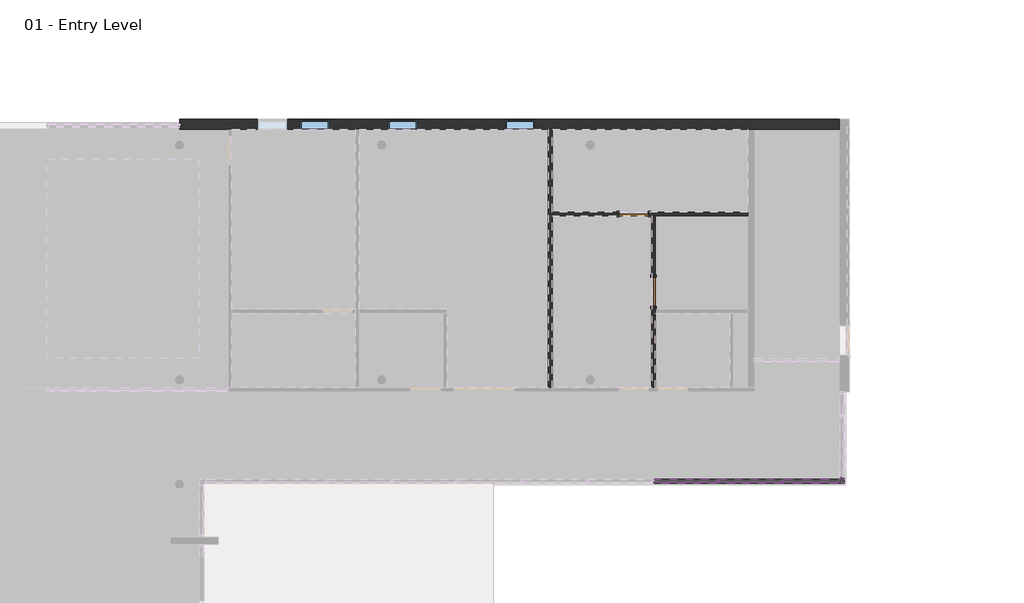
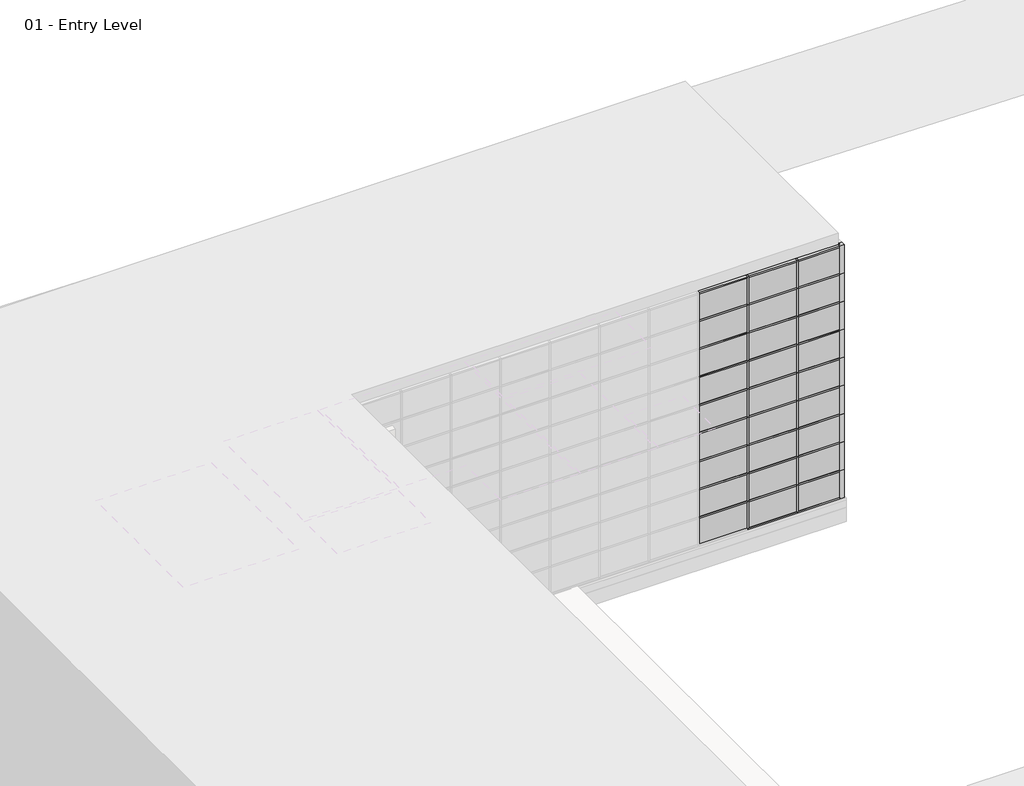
# One storey, part 30 of 35: 57 members, 33 plates, 4 walls, 3 windows, 2 doors.
"""IFC4 building model written with IfcOpenShell, lengths in millimetres."""

from ifc_helpers import new_model, si_unit, origin, place, context, project, spatial, faceted_brep, transform, mapped, element, save
from components import door_305aa2a5, door_e5f9f3c4, member_6230916f, member_2b49869a, member_391b434c, member_9e90ae50, member_515a5600, member_9fe7059d, member_9822c4e5, system_panel_glazed_1b9d6098, system_panel_glazed_70da479d, system_panel_glazed_379c68fb, system_panel_glazed_1c1023c8, system_panel_glazed_01db37db, system_panel_glazed_0a464ab8, window_dfee3f32

model = new_model("IFC4")

# Units and contexts
model_context = context("Model", 3, world=origin())
ifc_project = project(units=[si_unit("LENGTHUNIT", "METRE", prefix="MILLI")], contexts=[model_context])

# Site, building, storey
site = spatial("IfcSite", under=ifc_project)
building = spatial("IfcBuilding", under=site)
storey = spatial("IfcBuildingStorey", under=building, Name="01 - Entry Level", Elevation=0.0)

# Doors
placement = place(None, origin())
door_shape = door_305aa2a5(model_context)
element("IfcDoor", 1, ObjectType="Single-Flush : 36\" x 84\"", at=placement, inside=storey, context=model_context, shape_type="MappedRepresentation", body=[
    mapped(door_shape, transform((30646.0207476, 51082.5, 0.0), x_axis=(1.0, 0.0, 0.0), y_axis=(0.0, 1.0, 0.0), z_axis=(0.0, 0.0, 1.0))),
])
door_2_shape = door_e5f9f3c4(model_context)
element("IfcDoor", 2, ObjectType="Single-Flush : 36\" x 84\"", at=placement, inside=storey, context=model_context, shape_type="MappedRepresentation", body=[
    mapped(door_2_shape, transform((31255.6207476, 48656.8, 0.0), x_axis=(0.0, -1.0, 0.0), y_axis=(1.0, 0.0, 0.0), z_axis=(0.0, 0.0, 1.0))),
])

# Members
member_shape = member_6230916f(model_context)
element("IfcMember", 3, ObjectType="L Corner Mullion : 5\" x 5\" Corner", at=placement, inside=storey, context=model_context, shape_type="MappedRepresentation", body=[
    mapped(member_shape, transform((37148.4207476, 42751.3, 10972.8), x_axis=(0.0, -1.0, 0.0), y_axis=(1.0, 0.0, 0.0), z_axis=(0.0, 0.0, 1.0))),
])
element("IfcMember", 4, ObjectType="L Corner Mullion : 5\" x 5\" Corner", at=placement, inside=storey, context=model_context, shape_type="MappedRepresentation", body=[
    mapped(member_shape, transform((37148.4207476, 42751.3, 1219.2), x_axis=(0.0, -1.0, 0.0), y_axis=(1.0, 0.0, 0.0), z_axis=(0.0, 0.0, 1.0))),
])
element("IfcMember", 5, ObjectType="L Corner Mullion : 5\" x 5\" Corner", at=placement, inside=storey, context=model_context, shape_type="MappedRepresentation", body=[
    mapped(member_shape, transform((37148.4207476, 42751.3, 2438.4), x_axis=(0.0, -1.0, 0.0), y_axis=(1.0, 0.0, 0.0), z_axis=(0.0, 0.0, 1.0))),
])
element("IfcMember", 6, ObjectType="L Corner Mullion : 5\" x 5\" Corner", at=placement, inside=storey, context=model_context, shape_type="MappedRepresentation", body=[
    mapped(member_shape, transform((37148.4207476, 42751.3, 3657.6), x_axis=(0.0, -1.0, 0.0), y_axis=(1.0, 0.0, 0.0), z_axis=(0.0, 0.0, 1.0))),
])
element("IfcMember", 7, ObjectType="L Corner Mullion : 5\" x 5\" Corner", at=placement, inside=storey, context=model_context, shape_type="MappedRepresentation", body=[
    mapped(member_shape, transform((37148.4207476, 42751.3, 4876.8), x_axis=(0.0, -1.0, 0.0), y_axis=(1.0, 0.0, 0.0), z_axis=(0.0, 0.0, 1.0))),
])
element("IfcMember", 8, ObjectType="L Corner Mullion : 5\" x 5\" Corner", at=placement, inside=storey, context=model_context, shape_type="MappedRepresentation", body=[
    mapped(member_shape, transform((37148.4207476, 42751.3, 6096.0), x_axis=(0.0, -1.0, 0.0), y_axis=(1.0, 0.0, 0.0), z_axis=(0.0, 0.0, 1.0))),
])
element("IfcMember", 9, ObjectType="L Corner Mullion : 5\" x 5\" Corner", at=placement, inside=storey, context=model_context, shape_type="MappedRepresentation", body=[
    mapped(member_shape, transform((37148.4207476, 42751.3, 7315.2), x_axis=(0.0, -1.0, 0.0), y_axis=(1.0, 0.0, 0.0), z_axis=(0.0, 0.0, 1.0))),
])
element("IfcMember", 10, ObjectType="L Corner Mullion : 5\" x 5\" Corner", at=placement, inside=storey, context=model_context, shape_type="MappedRepresentation", body=[
    mapped(member_shape, transform((37148.4207476, 42751.3, 8534.4), x_axis=(0.0, -1.0, 0.0), y_axis=(1.0, 0.0, 0.0), z_axis=(0.0, 0.0, 1.0))),
])
element("IfcMember", 11, ObjectType="L Corner Mullion : 5\" x 5\" Corner", at=placement, inside=storey, context=model_context, shape_type="MappedRepresentation", body=[
    mapped(member_shape, transform((37148.4207476, 42751.3, 9753.6), x_axis=(0.0, -1.0, 0.0), y_axis=(1.0, 0.0, 0.0), z_axis=(0.0, 0.0, 1.0))),
])
member_2_shape = member_2b49869a(model_context)
element("IfcMember", 12, ObjectType="Rectangular Mullion : 2.5\" x 5\" rectangular", at=placement, inside=storey, context=model_context, shape_type="MappedRepresentation", body=[
    mapped(member_2_shape, transform((33262.2207476, 42751.3, 9753.6), x_axis=(1.0, 0.0, 0.0), y_axis=(0.0, -1.0, 0.0), z_axis=(0.0, 0.0, -1.0))),
])
element("IfcMember", 13, ObjectType="Rectangular Mullion : 2.5\" x 5\" rectangular", at=placement, inside=storey, context=model_context, shape_type="MappedRepresentation", body=[
    mapped(member_2_shape, transform((35294.2207476, 42751.3, 9753.6), x_axis=(1.0, 0.0, 0.0), y_axis=(0.0, -1.0, 0.0), z_axis=(0.0, 0.0, -1.0))),
])
member_3_shape = member_391b434c(model_context)
element("IfcMember", 14, ObjectType="Rectangular Mullion : 2.5\" x 5\" rectangular", at=placement, inside=storey, context=model_context, shape_type="MappedRepresentation", body=[
    mapped(member_3_shape, transform((33230.4707476, 42751.3, 10972.8), x_axis=(0.0, 0.0, 1.0), y_axis=(0.0, -1.0, 0.0), z_axis=(1.0, 0.0, 0.0))),
])
element("IfcMember", 15, ObjectType="Rectangular Mullion : 2.5\" x 5\" rectangular", at=placement, inside=storey, context=model_context, shape_type="MappedRepresentation", body=[
    mapped(member_3_shape, transform((35262.4707476, 42751.3, 10972.8), x_axis=(0.0, 0.0, 1.0), y_axis=(0.0, -1.0, 0.0), z_axis=(1.0, 0.0, 0.0))),
])
element("IfcMember", 16, ObjectType="Rectangular Mullion : 2.5\" x 5\" rectangular", at=placement, inside=storey, context=model_context, shape_type="MappedRepresentation", body=[
    mapped(member_3_shape, transform((33293.9707476, 42751.3, 0.0), x_axis=(0.0, 0.0, -1.0), y_axis=(0.0, -1.0, 0.0), z_axis=(-1.0, 0.0, 0.0))),
])
member_4_shape = member_9e90ae50(model_context)
element("IfcMember", 17, ObjectType="Rectangular Mullion : 2.5\" x 5\" rectangular", at=placement, inside=storey, context=model_context, shape_type="MappedRepresentation", body=[
    mapped(member_4_shape, transform((33230.4707476, 42751.3, 1219.2), x_axis=(0.0, 0.0, 1.0), y_axis=(0.0, -1.0, 0.0), z_axis=(1.0, 0.0, 0.0))),
])
element("IfcMember", 18, ObjectType="Rectangular Mullion : 2.5\" x 5\" rectangular", at=placement, inside=storey, context=model_context, shape_type="MappedRepresentation", body=[
    mapped(member_4_shape, transform((35262.4707476, 42751.3, 1219.2), x_axis=(0.0, 0.0, 1.0), y_axis=(0.0, -1.0, 0.0), z_axis=(1.0, 0.0, 0.0))),
])
element("IfcMember", 19, ObjectType="Rectangular Mullion : 2.5\" x 5\" rectangular", at=placement, inside=storey, context=model_context, shape_type="MappedRepresentation", body=[
    mapped(member_4_shape, transform((33230.4707476, 42751.3, 2438.4), x_axis=(0.0, 0.0, 1.0), y_axis=(0.0, -1.0, 0.0), z_axis=(1.0, 0.0, 0.0))),
])
element("IfcMember", 20, ObjectType="Rectangular Mullion : 2.5\" x 5\" rectangular", at=placement, inside=storey, context=model_context, shape_type="MappedRepresentation", body=[
    mapped(member_4_shape, transform((35262.4707476, 42751.3, 2438.4), x_axis=(0.0, 0.0, 1.0), y_axis=(0.0, -1.0, 0.0), z_axis=(1.0, 0.0, 0.0))),
])
element("IfcMember", 21, ObjectType="Rectangular Mullion : 2.5\" x 5\" rectangular", at=placement, inside=storey, context=model_context, shape_type="MappedRepresentation", body=[
    mapped(member_4_shape, transform((33230.4707476, 42751.3, 3657.6), x_axis=(0.0, 0.0, 1.0), y_axis=(0.0, -1.0, 0.0), z_axis=(1.0, 0.0, 0.0))),
])
element("IfcMember", 22, ObjectType="Rectangular Mullion : 2.5\" x 5\" rectangular", at=placement, inside=storey, context=model_context, shape_type="MappedRepresentation", body=[
    mapped(member_4_shape, transform((35262.4707476, 42751.3, 3657.6), x_axis=(0.0, 0.0, 1.0), y_axis=(0.0, -1.0, 0.0), z_axis=(1.0, 0.0, 0.0))),
])
element("IfcMember", 23, ObjectType="Rectangular Mullion : 2.5\" x 5\" rectangular", at=placement, inside=storey, context=model_context, shape_type="MappedRepresentation", body=[
    mapped(member_4_shape, transform((33230.4707476, 42751.3, 4876.8), x_axis=(0.0, 0.0, 1.0), y_axis=(0.0, -1.0, 0.0), z_axis=(1.0, 0.0, 0.0))),
])
element("IfcMember", 24, ObjectType="Rectangular Mullion : 2.5\" x 5\" rectangular", at=placement, inside=storey, context=model_context, shape_type="MappedRepresentation", body=[
    mapped(member_4_shape, transform((35262.4707476, 42751.3, 4876.8), x_axis=(0.0, 0.0, 1.0), y_axis=(0.0, -1.0, 0.0), z_axis=(1.0, 0.0, 0.0))),
])
element("IfcMember", 25, ObjectType="Rectangular Mullion : 2.5\" x 5\" rectangular", at=placement, inside=storey, context=model_context, shape_type="MappedRepresentation", body=[
    mapped(member_4_shape, transform((33230.4707476, 42751.3, 6096.0), x_axis=(0.0, 0.0, 1.0), y_axis=(0.0, -1.0, 0.0), z_axis=(1.0, 0.0, 0.0))),
])
element("IfcMember", 26, ObjectType="Rectangular Mullion : 2.5\" x 5\" rectangular", at=placement, inside=storey, context=model_context, shape_type="MappedRepresentation", body=[
    mapped(member_4_shape, transform((35262.4707476, 42751.3, 6096.0), x_axis=(0.0, 0.0, 1.0), y_axis=(0.0, -1.0, 0.0), z_axis=(1.0, 0.0, 0.0))),
])
element("IfcMember", 27, ObjectType="Rectangular Mullion : 2.5\" x 5\" rectangular", at=placement, inside=storey, context=model_context, shape_type="MappedRepresentation", body=[
    mapped(member_4_shape, transform((33230.4707476, 42751.3, 7315.2), x_axis=(0.0, 0.0, 1.0), y_axis=(0.0, -1.0, 0.0), z_axis=(1.0, 0.0, 0.0))),
])
element("IfcMember", 28, ObjectType="Rectangular Mullion : 2.5\" x 5\" rectangular", at=placement, inside=storey, context=model_context, shape_type="MappedRepresentation", body=[
    mapped(member_4_shape, transform((35262.4707476, 42751.3, 7315.2), x_axis=(0.0, 0.0, 1.0), y_axis=(0.0, -1.0, 0.0), z_axis=(1.0, 0.0, 0.0))),
])
element("IfcMember", 29, ObjectType="Rectangular Mullion : 2.5\" x 5\" rectangular", at=placement, inside=storey, context=model_context, shape_type="MappedRepresentation", body=[
    mapped(member_4_shape, transform((33230.4707476, 42751.3, 8534.4), x_axis=(0.0, 0.0, 1.0), y_axis=(0.0, -1.0, 0.0), z_axis=(1.0, 0.0, 0.0))),
])
element("IfcMember", 30, ObjectType="Rectangular Mullion : 2.5\" x 5\" rectangular", at=placement, inside=storey, context=model_context, shape_type="MappedRepresentation", body=[
    mapped(member_4_shape, transform((35262.4707476, 42751.3, 8534.4), x_axis=(0.0, 0.0, 1.0), y_axis=(0.0, -1.0, 0.0), z_axis=(1.0, 0.0, 0.0))),
])
element("IfcMember", 31, ObjectType="Rectangular Mullion : 2.5\" x 5\" rectangular", at=placement, inside=storey, context=model_context, shape_type="MappedRepresentation", body=[
    mapped(member_4_shape, transform((33230.4707476, 42751.3, 9753.6), x_axis=(0.0, 0.0, 1.0), y_axis=(0.0, -1.0, 0.0), z_axis=(1.0, 0.0, 0.0))),
])
element("IfcMember", 32, ObjectType="Rectangular Mullion : 2.5\" x 5\" rectangular", at=placement, inside=storey, context=model_context, shape_type="MappedRepresentation", body=[
    mapped(member_4_shape, transform((35262.4707476, 42751.3, 9753.6), x_axis=(0.0, 0.0, 1.0), y_axis=(0.0, -1.0, 0.0), z_axis=(1.0, 0.0, 0.0))),
])
element("IfcMember", 33, ObjectType="Rectangular Mullion : 2.5\" x 5\" rectangular", at=placement, inside=storey, context=model_context, shape_type="MappedRepresentation", body=[
    mapped(member_2_shape, transform((33262.2207476, 42751.3, 0.0), x_axis=(1.0, 0.0, 0.0), y_axis=(0.0, -1.0, 0.0), z_axis=(0.0, 0.0, -1.0))),
])
element("IfcMember", 34, ObjectType="Rectangular Mullion : 2.5\" x 5\" rectangular", at=placement, inside=storey, context=model_context, shape_type="MappedRepresentation", body=[
    mapped(member_2_shape, transform((35294.2207476, 42751.3, 0.0), x_axis=(1.0, 0.0, 0.0), y_axis=(0.0, -1.0, 0.0), z_axis=(0.0, 0.0, -1.0))),
])
element("IfcMember", 35, ObjectType="Rectangular Mullion : 2.5\" x 5\" rectangular", at=placement, inside=storey, context=model_context, shape_type="MappedRepresentation", body=[
    mapped(member_2_shape, transform((33262.2207476, 42751.3, 1219.2), x_axis=(1.0, 0.0, 0.0), y_axis=(0.0, -1.0, 0.0), z_axis=(0.0, 0.0, -1.0))),
])
element("IfcMember", 36, ObjectType="Rectangular Mullion : 2.5\" x 5\" rectangular", at=placement, inside=storey, context=model_context, shape_type="MappedRepresentation", body=[
    mapped(member_2_shape, transform((35294.2207476, 42751.3, 1219.2), x_axis=(1.0, 0.0, 0.0), y_axis=(0.0, -1.0, 0.0), z_axis=(0.0, 0.0, -1.0))),
])
element("IfcMember", 37, ObjectType="Rectangular Mullion : 2.5\" x 5\" rectangular", at=placement, inside=storey, context=model_context, shape_type="MappedRepresentation", body=[
    mapped(member_2_shape, transform((33262.2207476, 42751.3, 2438.4), x_axis=(1.0, 0.0, 0.0), y_axis=(0.0, -1.0, 0.0), z_axis=(0.0, 0.0, -1.0))),
])
element("IfcMember", 38, ObjectType="Rectangular Mullion : 2.5\" x 5\" rectangular", at=placement, inside=storey, context=model_context, shape_type="MappedRepresentation", body=[
    mapped(member_2_shape, transform((35294.2207476, 42751.3, 2438.4), x_axis=(1.0, 0.0, 0.0), y_axis=(0.0, -1.0, 0.0), z_axis=(0.0, 0.0, -1.0))),
])
element("IfcMember", 39, ObjectType="Rectangular Mullion : 2.5\" x 5\" rectangular", at=placement, inside=storey, context=model_context, shape_type="MappedRepresentation", body=[
    mapped(member_2_shape, transform((33262.2207476, 42751.3, 3657.6), x_axis=(1.0, 0.0, 0.0), y_axis=(0.0, -1.0, 0.0), z_axis=(0.0, 0.0, -1.0))),
])
element("IfcMember", 40, ObjectType="Rectangular Mullion : 2.5\" x 5\" rectangular", at=placement, inside=storey, context=model_context, shape_type="MappedRepresentation", body=[
    mapped(member_2_shape, transform((35294.2207476, 42751.3, 3657.6), x_axis=(1.0, 0.0, 0.0), y_axis=(0.0, -1.0, 0.0), z_axis=(0.0, 0.0, -1.0))),
])
element("IfcMember", 41, ObjectType="Rectangular Mullion : 2.5\" x 5\" rectangular", at=placement, inside=storey, context=model_context, shape_type="MappedRepresentation", body=[
    mapped(member_2_shape, transform((33262.2207476, 42751.3, 4876.8), x_axis=(1.0, 0.0, 0.0), y_axis=(0.0, -1.0, 0.0), z_axis=(0.0, 0.0, -1.0))),
])
element("IfcMember", 42, ObjectType="Rectangular Mullion : 2.5\" x 5\" rectangular", at=placement, inside=storey, context=model_context, shape_type="MappedRepresentation", body=[
    mapped(member_2_shape, transform((35294.2207476, 42751.3, 4876.8), x_axis=(1.0, 0.0, 0.0), y_axis=(0.0, -1.0, 0.0), z_axis=(0.0, 0.0, -1.0))),
])
element("IfcMember", 43, ObjectType="Rectangular Mullion : 2.5\" x 5\" rectangular", at=placement, inside=storey, context=model_context, shape_type="MappedRepresentation", body=[
    mapped(member_2_shape, transform((33262.2207476, 42751.3, 6096.0), x_axis=(1.0, 0.0, 0.0), y_axis=(0.0, -1.0, 0.0), z_axis=(0.0, 0.0, -1.0))),
])
element("IfcMember", 44, ObjectType="Rectangular Mullion : 2.5\" x 5\" rectangular", at=placement, inside=storey, context=model_context, shape_type="MappedRepresentation", body=[
    mapped(member_2_shape, transform((35294.2207476, 42751.3, 6096.0), x_axis=(1.0, 0.0, 0.0), y_axis=(0.0, -1.0, 0.0), z_axis=(0.0, 0.0, -1.0))),
])
element("IfcMember", 45, ObjectType="Rectangular Mullion : 2.5\" x 5\" rectangular", at=placement, inside=storey, context=model_context, shape_type="MappedRepresentation", body=[
    mapped(member_2_shape, transform((33262.2207476, 42751.3, 7315.2), x_axis=(1.0, 0.0, 0.0), y_axis=(0.0, -1.0, 0.0), z_axis=(0.0, 0.0, -1.0))),
])
element("IfcMember", 46, ObjectType="Rectangular Mullion : 2.5\" x 5\" rectangular", at=placement, inside=storey, context=model_context, shape_type="MappedRepresentation", body=[
    mapped(member_2_shape, transform((35294.2207476, 42751.3, 7315.2), x_axis=(1.0, 0.0, 0.0), y_axis=(0.0, -1.0, 0.0), z_axis=(0.0, 0.0, -1.0))),
])
element("IfcMember", 47, ObjectType="Rectangular Mullion : 2.5\" x 5\" rectangular", at=placement, inside=storey, context=model_context, shape_type="MappedRepresentation", body=[
    mapped(member_2_shape, transform((33262.2207476, 42751.3, 8534.4), x_axis=(1.0, 0.0, 0.0), y_axis=(0.0, -1.0, 0.0), z_axis=(0.0, 0.0, -1.0))),
])
element("IfcMember", 48, ObjectType="Rectangular Mullion : 2.5\" x 5\" rectangular", at=placement, inside=storey, context=model_context, shape_type="MappedRepresentation", body=[
    mapped(member_2_shape, transform((35294.2207476, 42751.3, 8534.4), x_axis=(1.0, 0.0, 0.0), y_axis=(0.0, -1.0, 0.0), z_axis=(0.0, 0.0, -1.0))),
])
member_5_shape = member_515a5600(model_context)
element("IfcMember", 49, ObjectType="Rectangular Mullion : 2.5\" x 5\" rectangular", at=placement, inside=storey, context=model_context, shape_type="MappedRepresentation", body=[
    mapped(member_5_shape, transform((37021.4207476, 42751.3, 10972.8), x_axis=(0.0, 0.0, 1.0), y_axis=(0.0, -1.0, 0.0), z_axis=(1.0, 0.0, 0.0))),
])
element("IfcMember", 50, ObjectType="Rectangular Mullion : 2.5\" x 5\" rectangular", at=placement, inside=storey, context=model_context, shape_type="MappedRepresentation", body=[
    mapped(member_5_shape, transform((35325.9707476, 42751.3, 0.0), x_axis=(0.0, 0.0, -1.0), y_axis=(0.0, -1.0, 0.0), z_axis=(-1.0, 0.0, 0.0))),
])
member_6_shape = member_9fe7059d(model_context)
element("IfcMember", 51, ObjectType="Rectangular Mullion : 2.5\" x 5\" rectangular", at=placement, inside=storey, context=model_context, shape_type="MappedRepresentation", body=[
    mapped(member_6_shape, transform((37021.4207476, 42751.3, 1219.2), x_axis=(0.0, 0.0, 1.0), y_axis=(0.0, -1.0, 0.0), z_axis=(1.0, 0.0, 0.0))),
])
element("IfcMember", 52, ObjectType="Rectangular Mullion : 2.5\" x 5\" rectangular", at=placement, inside=storey, context=model_context, shape_type="MappedRepresentation", body=[
    mapped(member_6_shape, transform((37021.4207476, 42751.3, 2438.4), x_axis=(0.0, 0.0, 1.0), y_axis=(0.0, -1.0, 0.0), z_axis=(1.0, 0.0, 0.0))),
])
element("IfcMember", 53, ObjectType="Rectangular Mullion : 2.5\" x 5\" rectangular", at=placement, inside=storey, context=model_context, shape_type="MappedRepresentation", body=[
    mapped(member_6_shape, transform((37021.4207476, 42751.3, 3657.6), x_axis=(0.0, 0.0, 1.0), y_axis=(0.0, -1.0, 0.0), z_axis=(1.0, 0.0, 0.0))),
])
element("IfcMember", 54, ObjectType="Rectangular Mullion : 2.5\" x 5\" rectangular", at=placement, inside=storey, context=model_context, shape_type="MappedRepresentation", body=[
    mapped(member_6_shape, transform((37021.4207476, 42751.3, 4876.8), x_axis=(0.0, 0.0, 1.0), y_axis=(0.0, -1.0, 0.0), z_axis=(1.0, 0.0, 0.0))),
])
element("IfcMember", 55, ObjectType="Rectangular Mullion : 2.5\" x 5\" rectangular", at=placement, inside=storey, context=model_context, shape_type="MappedRepresentation", body=[
    mapped(member_6_shape, transform((37021.4207476, 42751.3, 6096.0), x_axis=(0.0, 0.0, 1.0), y_axis=(0.0, -1.0, 0.0), z_axis=(1.0, 0.0, 0.0))),
])
element("IfcMember", 56, ObjectType="Rectangular Mullion : 2.5\" x 5\" rectangular", at=placement, inside=storey, context=model_context, shape_type="MappedRepresentation", body=[
    mapped(member_6_shape, transform((37021.4207476, 42751.3, 7315.2), x_axis=(0.0, 0.0, 1.0), y_axis=(0.0, -1.0, 0.0), z_axis=(1.0, 0.0, 0.0))),
])
element("IfcMember", 57, ObjectType="Rectangular Mullion : 2.5\" x 5\" rectangular", at=placement, inside=storey, context=model_context, shape_type="MappedRepresentation", body=[
    mapped(member_6_shape, transform((37021.4207476, 42751.3, 8534.4), x_axis=(0.0, 0.0, 1.0), y_axis=(0.0, -1.0, 0.0), z_axis=(1.0, 0.0, 0.0))),
])
element("IfcMember", 58, ObjectType="Rectangular Mullion : 2.5\" x 5\" rectangular", at=placement, inside=storey, context=model_context, shape_type="MappedRepresentation", body=[
    mapped(member_6_shape, transform((37021.4207476, 42751.3, 9753.6), x_axis=(0.0, 0.0, 1.0), y_axis=(0.0, -1.0, 0.0), z_axis=(1.0, 0.0, 0.0))),
])
member_7_shape = member_9822c4e5(model_context)
element("IfcMember", 59, ObjectType="Rectangular Mullion : 2.5\" x 5\" rectangular", at=placement, inside=storey, context=model_context, shape_type="MappedRepresentation", body=[
    mapped(member_7_shape, transform((37148.4207476, 42878.3, 0.0), x_axis=(0.0, 0.0, -1.0), y_axis=(1.0, 0.0, 0.0), z_axis=(0.0, -1.0, 0.0))),
])

# Plates
system_panel_glazed_shape = system_panel_glazed_1b9d6098(model_context)
element("IfcPlate", 60, ObjectType="System Panel : Glazed", at=placement, inside=storey, context=model_context, shape_type="MappedRepresentation", body=[
    mapped(system_panel_glazed_shape, transform((32246.2207476, 42751.3, 63.5), x_axis=(1.0, 0.0, 0.0), y_axis=(0.0, 1.0, 0.0), z_axis=(0.0, 0.0, 1.0))),
])
element("IfcPlate", 61, ObjectType="System Panel : Glazed", at=placement, inside=storey, context=model_context, shape_type="MappedRepresentation", body=[
    mapped(system_panel_glazed_shape, transform((34278.2207476, 42751.3, 63.5), x_axis=(1.0, 0.0, 0.0), y_axis=(0.0, 1.0, 0.0), z_axis=(0.0, 0.0, 1.0))),
])
element("IfcPlate", 62, ObjectType="System Panel : Glazed", at=placement, inside=storey, context=model_context, shape_type="MappedRepresentation", body=[
    mapped(system_panel_glazed_shape, transform((32246.2207476, 42751.3, 9785.35), x_axis=(1.0, 0.0, 0.0), y_axis=(0.0, 1.0, 0.0), z_axis=(0.0, 0.0, 1.0))),
])
element("IfcPlate", 63, ObjectType="System Panel : Glazed", at=placement, inside=storey, context=model_context, shape_type="MappedRepresentation", body=[
    mapped(system_panel_glazed_shape, transform((34278.2207476, 42751.3, 9785.35), x_axis=(1.0, 0.0, 0.0), y_axis=(0.0, 1.0, 0.0), z_axis=(0.0, 0.0, 1.0))),
])
system_panel_glazed_2_shape = system_panel_glazed_70da479d(model_context)
element("IfcPlate", 64, ObjectType="System Panel : Glazed", at=placement, inside=storey, context=model_context, shape_type="MappedRepresentation", body=[
    mapped(system_panel_glazed_2_shape, transform((32246.2207476, 42751.3, 1250.95), x_axis=(1.0, 0.0, 0.0), y_axis=(0.0, 1.0, 0.0), z_axis=(0.0, 0.0, 1.0))),
])
element("IfcPlate", 65, ObjectType="System Panel : Glazed", at=placement, inside=storey, context=model_context, shape_type="MappedRepresentation", body=[
    mapped(system_panel_glazed_2_shape, transform((34278.2207476, 42751.3, 1250.95), x_axis=(1.0, 0.0, 0.0), y_axis=(0.0, 1.0, 0.0), z_axis=(0.0, 0.0, 1.0))),
])
element("IfcPlate", 66, ObjectType="System Panel : Glazed", at=placement, inside=storey, context=model_context, shape_type="MappedRepresentation", body=[
    mapped(system_panel_glazed_2_shape, transform((32246.2207476, 42751.3, 2470.15), x_axis=(1.0, 0.0, 0.0), y_axis=(0.0, 1.0, 0.0), z_axis=(0.0, 0.0, 1.0))),
])
element("IfcPlate", 67, ObjectType="System Panel : Glazed", at=placement, inside=storey, context=model_context, shape_type="MappedRepresentation", body=[
    mapped(system_panel_glazed_2_shape, transform((34278.2207476, 42751.3, 2470.15), x_axis=(1.0, 0.0, 0.0), y_axis=(0.0, 1.0, 0.0), z_axis=(0.0, 0.0, 1.0))),
])
element("IfcPlate", 68, ObjectType="System Panel : Glazed", at=placement, inside=storey, context=model_context, shape_type="MappedRepresentation", body=[
    mapped(system_panel_glazed_2_shape, transform((32246.2207476, 42751.3, 3689.35), x_axis=(1.0, 0.0, 0.0), y_axis=(0.0, 1.0, 0.0), z_axis=(0.0, 0.0, 1.0))),
])
element("IfcPlate", 69, ObjectType="System Panel : Glazed", at=placement, inside=storey, context=model_context, shape_type="MappedRepresentation", body=[
    mapped(system_panel_glazed_2_shape, transform((34278.2207476, 42751.3, 3689.35), x_axis=(1.0, 0.0, 0.0), y_axis=(0.0, 1.0, 0.0), z_axis=(0.0, 0.0, 1.0))),
])
element("IfcPlate", 70, ObjectType="System Panel : Glazed", at=placement, inside=storey, context=model_context, shape_type="MappedRepresentation", body=[
    mapped(system_panel_glazed_2_shape, transform((32246.2207476, 42751.3, 4908.55), x_axis=(1.0, 0.0, 0.0), y_axis=(0.0, 1.0, 0.0), z_axis=(0.0, 0.0, 1.0))),
])
element("IfcPlate", 71, ObjectType="System Panel : Glazed", at=placement, inside=storey, context=model_context, shape_type="MappedRepresentation", body=[
    mapped(system_panel_glazed_2_shape, transform((34278.2207476, 42751.3, 4908.55), x_axis=(1.0, 0.0, 0.0), y_axis=(0.0, 1.0, 0.0), z_axis=(0.0, 0.0, 1.0))),
])
element("IfcPlate", 72, ObjectType="System Panel : Glazed", at=placement, inside=storey, context=model_context, shape_type="MappedRepresentation", body=[
    mapped(system_panel_glazed_2_shape, transform((32246.2207476, 42751.3, 6127.75), x_axis=(1.0, 0.0, 0.0), y_axis=(0.0, 1.0, 0.0), z_axis=(0.0, 0.0, 1.0))),
])
element("IfcPlate", 73, ObjectType="System Panel : Glazed", at=placement, inside=storey, context=model_context, shape_type="MappedRepresentation", body=[
    mapped(system_panel_glazed_2_shape, transform((34278.2207476, 42751.3, 6127.75), x_axis=(1.0, 0.0, 0.0), y_axis=(0.0, 1.0, 0.0), z_axis=(0.0, 0.0, 1.0))),
])
element("IfcPlate", 74, ObjectType="System Panel : Glazed", at=placement, inside=storey, context=model_context, shape_type="MappedRepresentation", body=[
    mapped(system_panel_glazed_2_shape, transform((32246.2207476, 42751.3, 7346.95), x_axis=(1.0, 0.0, 0.0), y_axis=(0.0, 1.0, 0.0), z_axis=(0.0, 0.0, 1.0))),
])
element("IfcPlate", 75, ObjectType="System Panel : Glazed", at=placement, inside=storey, context=model_context, shape_type="MappedRepresentation", body=[
    mapped(system_panel_glazed_2_shape, transform((34278.2207476, 42751.3, 7346.95), x_axis=(1.0, 0.0, 0.0), y_axis=(0.0, 1.0, 0.0), z_axis=(0.0, 0.0, 1.0))),
])
element("IfcPlate", 76, ObjectType="System Panel : Glazed", at=placement, inside=storey, context=model_context, shape_type="MappedRepresentation", body=[
    mapped(system_panel_glazed_2_shape, transform((32246.2207476, 42751.3, 8566.15), x_axis=(1.0, 0.0, 0.0), y_axis=(0.0, 1.0, 0.0), z_axis=(0.0, 0.0, 1.0))),
])
element("IfcPlate", 77, ObjectType="System Panel : Glazed", at=placement, inside=storey, context=model_context, shape_type="MappedRepresentation", body=[
    mapped(system_panel_glazed_2_shape, transform((34278.2207476, 42751.3, 8566.15), x_axis=(1.0, 0.0, 0.0), y_axis=(0.0, 1.0, 0.0), z_axis=(0.0, 0.0, 1.0))),
])
system_panel_glazed_3_shape = system_panel_glazed_379c68fb(model_context)
element("IfcPlate", 78, ObjectType="System Panel : Glazed", at=placement, inside=storey, context=model_context, shape_type="MappedRepresentation", body=[
    mapped(system_panel_glazed_3_shape, transform((36173.6957476, 42751.3, 63.5), x_axis=(1.0, 0.0, 0.0), y_axis=(0.0, 1.0, 0.0), z_axis=(0.0, 0.0, 1.0))),
])
element("IfcPlate", 79, ObjectType="System Panel : Glazed", at=placement, inside=storey, context=model_context, shape_type="MappedRepresentation", body=[
    mapped(system_panel_glazed_3_shape, transform((36173.6957476, 42751.3, 9785.35), x_axis=(1.0, 0.0, 0.0), y_axis=(0.0, 1.0, 0.0), z_axis=(0.0, 0.0, 1.0))),
])
system_panel_glazed_4_shape = system_panel_glazed_1c1023c8(model_context)
element("IfcPlate", 80, ObjectType="System Panel : Glazed", at=placement, inside=storey, context=model_context, shape_type="MappedRepresentation", body=[
    mapped(system_panel_glazed_4_shape, transform((36173.6957476, 42751.3, 1250.95), x_axis=(1.0, 0.0, 0.0), y_axis=(0.0, 1.0, 0.0), z_axis=(0.0, 0.0, 1.0))),
])
element("IfcPlate", 81, ObjectType="System Panel : Glazed", at=placement, inside=storey, context=model_context, shape_type="MappedRepresentation", body=[
    mapped(system_panel_glazed_4_shape, transform((36173.6957476, 42751.3, 2470.15), x_axis=(1.0, 0.0, 0.0), y_axis=(0.0, 1.0, 0.0), z_axis=(0.0, 0.0, 1.0))),
])
element("IfcPlate", 82, ObjectType="System Panel : Glazed", at=placement, inside=storey, context=model_context, shape_type="MappedRepresentation", body=[
    mapped(system_panel_glazed_4_shape, transform((36173.6957476, 42751.3, 3689.35), x_axis=(1.0, 0.0, 0.0), y_axis=(0.0, 1.0, 0.0), z_axis=(0.0, 0.0, 1.0))),
])
element("IfcPlate", 83, ObjectType="System Panel : Glazed", at=placement, inside=storey, context=model_context, shape_type="MappedRepresentation", body=[
    mapped(system_panel_glazed_4_shape, transform((36173.6957476, 42751.3, 4908.55), x_axis=(1.0, 0.0, 0.0), y_axis=(0.0, 1.0, 0.0), z_axis=(0.0, 0.0, 1.0))),
])
element("IfcPlate", 84, ObjectType="System Panel : Glazed", at=placement, inside=storey, context=model_context, shape_type="MappedRepresentation", body=[
    mapped(system_panel_glazed_4_shape, transform((36173.6957476, 42751.3, 6127.75), x_axis=(1.0, 0.0, 0.0), y_axis=(0.0, 1.0, 0.0), z_axis=(0.0, 0.0, 1.0))),
])
element("IfcPlate", 85, ObjectType="System Panel : Glazed", at=placement, inside=storey, context=model_context, shape_type="MappedRepresentation", body=[
    mapped(system_panel_glazed_4_shape, transform((36173.6957476, 42751.3, 7346.95), x_axis=(1.0, 0.0, 0.0), y_axis=(0.0, 1.0, 0.0), z_axis=(0.0, 0.0, 1.0))),
])
element("IfcPlate", 86, ObjectType="System Panel : Glazed", at=placement, inside=storey, context=model_context, shape_type="MappedRepresentation", body=[
    mapped(system_panel_glazed_4_shape, transform((36173.6957476, 42751.3, 8566.15), x_axis=(1.0, 0.0, 0.0), y_axis=(0.0, 1.0, 0.0), z_axis=(0.0, 0.0, 1.0))),
])
system_panel_glazed_5_shape = system_panel_glazed_01db37db(model_context)
element("IfcPlate", 87, ObjectType="System Panel : Glazed", at=placement, inside=storey, context=model_context, shape_type="MappedRepresentation", body=[
    mapped(system_panel_glazed_5_shape, transform((37148.4207476, 43814.925, 63.5), x_axis=(0.0, 1.0, 0.0), y_axis=(-1.0, 0.0, 0.0), z_axis=(0.0, 0.0, 1.0))),
])
system_panel_glazed_6_shape = system_panel_glazed_0a464ab8(model_context)
element("IfcPlate", 88, ObjectType="System Panel : Glazed", at=placement, inside=storey, context=model_context, shape_type="MappedRepresentation", body=[
    mapped(system_panel_glazed_6_shape, transform((37148.4207476, 43814.925, 1250.95), x_axis=(0.0, 1.0, 0.0), y_axis=(-1.0, 0.0, 0.0), z_axis=(0.0, 0.0, 1.0))),
])
element("IfcPlate", 89, ObjectType="System Panel : Glazed", at=placement, inside=storey, context=model_context, shape_type="MappedRepresentation", body=[
    mapped(system_panel_glazed_6_shape, transform((37148.4207476, 43814.925, 2470.15), x_axis=(0.0, 1.0, 0.0), y_axis=(-1.0, 0.0, 0.0), z_axis=(0.0, 0.0, 1.0))),
])
element("IfcPlate", 90, ObjectType="System Panel : Glazed", at=placement, inside=storey, context=model_context, shape_type="MappedRepresentation", body=[
    mapped(system_panel_glazed_6_shape, transform((37148.4207476, 43814.925, 3689.35), x_axis=(0.0, 1.0, 0.0), y_axis=(-1.0, 0.0, 0.0), z_axis=(0.0, 0.0, 1.0))),
])
element("IfcPlate", 91, ObjectType="System Panel : Glazed", at=placement, inside=storey, context=model_context, shape_type="MappedRepresentation", body=[
    mapped(system_panel_glazed_6_shape, transform((37148.4207476, 43814.925, 4908.55), x_axis=(0.0, 1.0, 0.0), y_axis=(-1.0, 0.0, 0.0), z_axis=(0.0, 0.0, 1.0))),
])
element("IfcPlate", 92, ObjectType="System Panel : Glazed", at=placement, inside=storey, context=model_context, shape_type="MappedRepresentation", body=[
    mapped(system_panel_glazed_6_shape, transform((37148.4207476, 43814.925, 6127.75), x_axis=(0.0, 1.0, 0.0), y_axis=(-1.0, 0.0, 0.0), z_axis=(0.0, 0.0, 1.0))),
])

# Walls
element("IfcWall", 93, ObjectType="Exterior - EIFS on CMU", at=placement, inside=storey, context=model_context, shape_type="Brep", body=[
    faceted_brep([(37046.8207476, 54032.075, 0.0), (16485.5207476, 54032.075, 0.0), (16485.5207476, 54032.075, 10972.8), (34405.2207476, 54032.075, 10972.8), (34405.2207476, 54032.075, 3657.6), (37046.8207476, 54032.075, 3657.6), (30798.4207476, 54032.075, 9448.8), (29884.0207476, 54032.075, 9448.8), (29884.0207476, 54032.075, 8229.6), (30798.4207476, 54032.075, 8229.6), (32322.4207476, 54032.075, 9448.8), (31408.0207476, 54032.075, 9448.8), (31408.0207476, 54032.075, 8229.6), (32322.4207476, 54032.075, 8229.6), (33846.4207476, 54032.075, 9448.8), (32932.0207476, 54032.075, 9448.8), (32932.0207476, 54032.075, 8229.6), (33846.4207476, 54032.075, 8229.6), (28931.5207476, 54032.075, 9448.8), (28017.1207476, 54032.075, 9448.8), (28017.1207476, 54032.075, 8229.6), (28931.5207476, 54032.075, 8229.6), (27407.5207476, 54032.075, 9448.8), (26493.1207476, 54032.075, 9448.8), (26493.1207476, 54032.075, 8229.6), (27407.5207476, 54032.075, 8229.6), (24054.7207476, 54032.075, 9448.8), (23140.3207476, 54032.075, 9448.8), (23140.3207476, 54032.075, 8229.6), (24054.7207476, 54032.075, 8229.6), (25578.7207476, 54032.075, 9448.8), (24664.3207476, 54032.075, 9448.8), (24664.3207476, 54032.075, 8229.6), (25578.7207476, 54032.075, 8229.6), (21387.7207476, 54032.075, 9448.8), (20473.3207476, 54032.075, 9448.8), (20473.3207476, 54032.075, 8229.6), (21387.7207476, 54032.075, 8229.6), (33846.4207476, 54032.075, 5791.2), (32932.0207476, 54032.075, 5791.2), (32932.0207476, 54032.075, 4572.0), (33846.4207476, 54032.075, 4572.0), (31293.7207476, 54032.075, 5791.2), (30379.3207476, 54032.075, 5791.2), (30379.3207476, 54032.075, 4572.0), (31293.7207476, 54032.075, 4572.0), (28398.1207476, 54032.075, 5791.2), (27483.7207476, 54032.075, 5791.2), (27483.7207476, 54032.075, 4572.0), (28398.1207476, 54032.075, 4572.0), (26569.3207476, 54032.075, 5791.2), (25654.9207476, 54032.075, 5791.2), (25654.9207476, 54032.075, 4572.0), (26569.3207476, 54032.075, 4572.0), (24003.9207476, 54032.075, 5791.2), (23089.5207476, 54032.075, 5791.2), (23089.5207476, 54032.075, 4572.0), (24003.9207476, 54032.075, 4572.0), (21565.5207476, 54032.075, 5791.2), (20651.1207476, 54032.075, 5791.2), (20651.1207476, 54032.075, 4572.0), (21565.5207476, 54032.075, 4572.0), (19381.1207476, 54032.075, 5791.2), (18466.7207476, 54032.075, 5791.2), (18466.7207476, 54032.075, 4572.0), (19381.1207476, 54032.075, 4572.0), (19838.3207476, 54032.075, 2133.6), (18923.9207476, 54032.075, 2133.6), (18923.9207476, 54032.075, 914.4), (19838.3207476, 54032.075, 914.4), (21159.1207476, 54032.075, 2133.6), (20244.7207476, 54032.075, 2133.6), (20244.7207476, 54032.075, 914.4), (21159.1207476, 54032.075, 914.4), (23902.3207476, 54032.075, 2133.6), (22987.9207476, 54032.075, 2133.6), (22987.9207476, 54032.075, 914.4), (23902.3207476, 54032.075, 914.4), (27559.6032476, 54032.075, 2133.6), (26645.2032476, 54032.075, 2133.6), (26645.2032476, 54032.075, 914.4), (27559.6032476, 54032.075, 914.4), (16485.5207476, 53724.1, 10972.8), (16485.5207476, 53724.1, 0.0), (18003.1707476, 53724.1, 0.0), (18117.4707476, 53724.1, 0.0), (21965.5707476, 53724.1, 0.0), (22079.8707476, 53724.1, 0.0), (27985.3707476, 53724.1, 0.0), (28099.6707476, 53724.1, 0.0), (34194.0832476, 53724.1, 0.0), (34413.1582476, 53724.1, 0.0), (37046.8207476, 53724.1, 0.0), (37046.8207476, 53724.1, 3657.6), (34405.2207476, 53724.1, 3657.6), (34405.2207476, 53724.1, 10972.8), (34194.0832476, 53724.1, 10972.8), (26093.0707476, 53724.1, 10972.8), (25978.7707476, 53724.1, 10972.8), (20073.2707476, 53724.1, 10972.8), (19958.9707476, 53724.1, 10972.8), (30798.4207476, 53724.1, 9448.8), (30798.4207476, 53724.1, 8229.6), (29884.0207476, 53724.1, 8229.6), (29884.0207476, 53724.1, 9448.8), (32322.4207476, 53724.1, 9448.8), (32322.4207476, 53724.1, 8229.6), (31408.0207476, 53724.1, 8229.6), (31408.0207476, 53724.1, 9448.8), (33846.4207476, 53724.1, 9448.8), (33846.4207476, 53724.1, 8229.6), (32932.0207476, 53724.1, 8229.6), (32932.0207476, 53724.1, 9448.8), (28931.5207476, 53724.1, 9448.8), (28931.5207476, 53724.1, 8229.6), (28017.1207476, 53724.1, 8229.6), (28017.1207476, 53724.1, 9448.8), (27407.5207476, 53724.1, 9448.8), (27407.5207476, 53724.1, 8229.6), (26493.1207476, 53724.1, 8229.6), (26493.1207476, 53724.1, 9448.8), (24054.7207476, 53724.1, 9448.8), (24054.7207476, 53724.1, 8229.6), (23140.3207476, 53724.1, 8229.6), (23140.3207476, 53724.1, 9448.8), (25578.7207476, 53724.1, 9448.8), (25578.7207476, 53724.1, 8229.6), (24664.3207476, 53724.1, 8229.6), (24664.3207476, 53724.1, 9448.8), (21387.7207476, 53724.1, 9448.8), (21387.7207476, 53724.1, 8229.6), (20473.3207476, 53724.1, 8229.6), (20473.3207476, 53724.1, 9448.8), (33846.4207476, 53724.1, 5791.2), (33846.4207476, 53724.1, 4572.0), (32932.0207476, 53724.1, 4572.0), (32932.0207476, 53724.1, 5791.2), (31293.7207476, 53724.1, 5791.2), (31293.7207476, 53724.1, 4572.0), (30379.3207476, 53724.1, 4572.0), (30379.3207476, 53724.1, 5791.2), (28398.1207476, 53724.1, 5791.2), (28398.1207476, 53724.1, 4572.0), (27483.7207476, 53724.1, 4572.0), (27483.7207476, 53724.1, 5791.2), (26569.3207476, 53724.1, 5791.2), (26569.3207476, 53724.1, 4572.0), (25654.9207476, 53724.1, 4572.0), (25654.9207476, 53724.1, 5791.2), (24003.9207476, 53724.1, 5791.2), (24003.9207476, 53724.1, 4572.0), (23089.5207476, 53724.1, 4572.0), (23089.5207476, 53724.1, 5791.2), (21565.5207476, 53724.1, 5791.2), (21565.5207476, 53724.1, 4572.0), (20651.1207476, 53724.1, 4572.0), (20651.1207476, 53724.1, 5791.2), (19381.1207476, 53724.1, 5791.2), (19381.1207476, 53724.1, 4572.0), (18466.7207476, 53724.1, 4572.0), (18466.7207476, 53724.1, 5791.2), (19838.3207476, 53724.1, 2133.6), (19838.3207476, 53724.1, 914.4), (18923.9207476, 53724.1, 914.4), (18923.9207476, 53724.1, 2133.6), (21159.1207476, 53724.1, 2133.6), (21159.1207476, 53724.1, 914.4), (20244.7207476, 53724.1, 914.4), (20244.7207476, 53724.1, 2133.6), (23902.3207476, 53724.1, 2133.6), (23902.3207476, 53724.1, 914.4), (22987.9207476, 53724.1, 914.4), (22987.9207476, 53724.1, 2133.6), (27559.6032476, 53724.1, 2133.6), (27559.6032476, 53724.1, 914.4), (26645.2032476, 53724.1, 914.4), (26645.2032476, 53724.1, 2133.6)], [[[0, 1, 2, 3, 4, 5], [6, 7, 8, 9], [10, 11, 12, 13], [14, 15, 16, 17], [18, 19, 20, 21], [22, 23, 24, 25], [26, 27, 28, 29], [30, 31, 32, 33], [34, 35, 36, 37], [38, 39, 40, 41], [42, 43, 44, 45], [46, 47, 48, 49], [50, 51, 52, 53], [54, 55, 56, 57], [58, 59, 60, 61], [62, 63, 64, 65], [66, 67, 68, 69], [70, 71, 72, 73], [74, 75, 76, 77], [78, 79, 80, 81]], [[82, 83, 84, 85, 86, 87, 88, 89, 90, 91, 92, 93, 94, 95, 96, 97, 98, 99, 100], [101, 102, 103, 104], [105, 106, 107, 108], [109, 110, 111, 112], [113, 114, 115, 116], [117, 118, 119, 120], [121, 122, 123, 124], [125, 126, 127, 128], [129, 130, 131, 132], [133, 134, 135, 136], [137, 138, 139, 140], [141, 142, 143, 144], [145, 146, 147, 148], [149, 150, 151, 152], [153, 154, 155, 156], [157, 158, 159, 160], [161, 162, 163, 164], [165, 166, 167, 168], [169, 170, 171, 172], [173, 174, 175, 176]], [[1, 0, 92, 91, 90, 89, 88, 87, 86, 85, 84, 83]], [[2, 1, 83, 82]], [[2, 82, 100, 99, 98, 97, 96, 95, 3]], [[92, 0, 5, 93]], [[94, 4, 3, 95]], [[4, 94, 93, 5]], [[102, 101, 6, 9]], [[103, 102, 9, 8]], [[104, 103, 8, 7]], [[101, 104, 7, 6]], [[106, 105, 10, 13]], [[107, 106, 13, 12]], [[108, 107, 12, 11]], [[105, 108, 11, 10]], [[110, 109, 14, 17]], [[111, 110, 17, 16]], [[112, 111, 16, 15]], [[109, 112, 15, 14]], [[114, 113, 18, 21]], [[115, 114, 21, 20]], [[116, 115, 20, 19]], [[113, 116, 19, 18]], [[118, 117, 22, 25]], [[119, 118, 25, 24]], [[120, 119, 24, 23]], [[117, 120, 23, 22]], [[122, 121, 26, 29]], [[123, 122, 29, 28]], [[124, 123, 28, 27]], [[121, 124, 27, 26]], [[126, 125, 30, 33]], [[127, 126, 33, 32]], [[128, 127, 32, 31]], [[125, 128, 31, 30]], [[130, 129, 34, 37]], [[131, 130, 37, 36]], [[132, 131, 36, 35]], [[129, 132, 35, 34]], [[134, 133, 38, 41]], [[135, 134, 41, 40]], [[136, 135, 40, 39]], [[133, 136, 39, 38]], [[138, 137, 42, 45]], [[139, 138, 45, 44]], [[140, 139, 44, 43]], [[137, 140, 43, 42]], [[142, 141, 46, 49]], [[143, 142, 49, 48]], [[144, 143, 48, 47]], [[141, 144, 47, 46]], [[146, 145, 50, 53]], [[147, 146, 53, 52]], [[148, 147, 52, 51]], [[145, 148, 51, 50]], [[150, 149, 54, 57]], [[151, 150, 57, 56]], [[152, 151, 56, 55]], [[149, 152, 55, 54]], [[154, 153, 58, 61]], [[155, 154, 61, 60]], [[156, 155, 60, 59]], [[153, 156, 59, 58]], [[158, 157, 62, 65]], [[159, 158, 65, 64]], [[160, 159, 64, 63]], [[157, 160, 63, 62]], [[162, 161, 66, 69]], [[163, 162, 69, 68]], [[164, 163, 68, 67]], [[161, 164, 67, 66]], [[166, 165, 70, 73]], [[167, 166, 73, 72]], [[168, 167, 72, 71]], [[165, 168, 71, 70]], [[170, 169, 74, 77]], [[171, 170, 77, 76]], [[172, 171, 76, 75]], [[169, 172, 75, 74]], [[174, 173, 78, 81]], [[175, 174, 81, 80]], [[176, 175, 80, 79]], [[173, 176, 79, 78]]]),
])
element("IfcWall", 94, ObjectType="Typ. Partition Wall", at=placement, inside=storey, context=model_context, shape_type="Brep", body=[
    faceted_brep([(27985.3707476, 53724.1, 0.0), (27985.3707476, 45659.6, 0.0), (27985.3707476, 45659.6, 3403.6), (27985.3707476, 53724.1, 3403.6), (28099.6707476, 53724.1, 0.0), (28099.6707476, 53724.1, 3403.6), (28099.6707476, 51139.65, 3403.6), (28099.6707476, 51025.35, 3403.6), (28099.6707476, 45659.6, 3403.6), (28099.6707476, 45659.6, 0.0), (28099.6707476, 51025.35, 0.0), (28099.6707476, 51139.65, 0.0)], [[[0, 1, 2, 3]], [[4, 5, 6, 7, 8, 9, 10, 11]], [[1, 0, 4, 11, 10, 9]], [[0, 3, 5, 4]], [[2, 1, 9, 8]], [[3, 2, 8, 7, 6, 5]]]),
])
element("IfcWall", 95, ObjectType="Typ. Partition Wall", at=placement, inside=storey, context=model_context, shape_type="Brep", body=[
    faceted_brep([(31103.2207476, 51025.35, 2133.6), (31103.2207476, 51025.35, 0.0), (31198.4707476, 51025.35, 0.0), (31312.7707476, 51025.35, 0.0), (34194.0832476, 51025.35, 0.0), (34194.0832476, 51025.35, 3403.6), (31312.7707476, 51025.35, 3403.6), (31198.4707476, 51025.35, 3403.6), (28099.6707476, 51025.35, 3403.6), (28099.6707476, 51025.35, 0.0), (30188.8207476, 51025.35, 0.0), (30188.8207476, 51025.35, 2133.6), (34194.0832476, 51139.65, 0.0), (31103.2207476, 51139.65, 0.0), (31103.2207476, 51139.65, 2133.6), (30188.8207476, 51139.65, 2133.6), (30188.8207476, 51139.65, 0.0), (28099.6707476, 51139.65, 0.0), (28099.6707476, 51139.65, 3403.6), (34194.0832476, 51139.65, 3403.6)], [[[0, 1, 2, 3, 4, 5, 6, 7, 8, 9, 10, 11]], [[12, 13, 14, 15, 16, 17, 18, 19]], [[4, 3, 2, 1, 13, 12]], [[10, 9, 17, 16]], [[9, 8, 18, 17]], [[5, 4, 12, 19]], [[8, 7, 6, 5, 19, 18]], [[14, 13, 1, 0]], [[15, 14, 0, 11]], [[16, 15, 11, 10]]]),
])
element("IfcWall", 96, ObjectType="Typ. Partition Wall", at=placement, inside=storey, context=model_context, shape_type="Brep", body=[
    faceted_brep([(31198.4707476, 48199.6, 2133.6), (31198.4707476, 48199.6, 0.0), (31198.4707476, 45659.6, 0.0), (31198.4707476, 45659.6, 3403.6), (31198.4707476, 51025.35, 3403.6), (31198.4707476, 51025.35, 0.0), (31198.4707476, 49114.0, 0.0), (31198.4707476, 49114.0, 2133.6), (31312.7707476, 45659.6, 0.0), (31312.7707476, 47990.05, 0.0), (31312.7707476, 48104.35, 0.0), (31312.7707476, 48199.6, 0.0), (31312.7707476, 48199.6, 2133.6), (31312.7707476, 49114.0, 2133.6), (31312.7707476, 49114.0, 0.0), (31312.7707476, 51025.35, 0.0), (31312.7707476, 51025.35, 3403.6), (31312.7707476, 48104.35, 3403.6), (31312.7707476, 47990.05, 3403.6), (31312.7707476, 45659.6, 3403.6)], [[[0, 1, 2, 3, 4, 5, 6, 7]], [[8, 9, 10, 11, 12, 13, 14, 15, 16, 17, 18, 19]], [[2, 1, 11, 10, 9, 8]], [[6, 5, 15, 14]], [[3, 2, 8, 19]], [[5, 4, 16, 15]], [[4, 3, 19, 18, 17, 16]], [[12, 11, 1, 0]], [[13, 12, 0, 7]], [[14, 13, 7, 6]]]),
])

# Windows
window_shape = window_dfee3f32(model_context)
element("IfcWindow", 97, ObjectType="Fixed : 36\" x 48\"", at=placement, inside=storey, context=model_context, shape_type="MappedRepresentation", body=[
    mapped(window_shape, transform((27140.5032476, 53878.0875, 0.0), x_axis=(1.0, 0.0, 0.0), y_axis=(0.0, 1.0, 0.0), z_axis=(0.0, 0.0, 1.0))),
])
element("IfcWindow", 98, ObjectType="Fixed : 36\" x 48\"", at=placement, inside=storey, context=model_context, shape_type="MappedRepresentation", body=[
    mapped(window_shape, transform((23483.2207476, 53878.0875, 0.0), x_axis=(1.0, 0.0, 0.0), y_axis=(0.0, 1.0, 0.0), z_axis=(0.0, 0.0, 1.0))),
])
element("IfcWindow", 99, ObjectType="Fixed : 36\" x 48\"", at=placement, inside=storey, context=model_context, shape_type="MappedRepresentation", body=[
    mapped(window_shape, transform((20740.0207476, 53878.0875, 0.0), x_axis=(1.0, 0.0, 0.0), y_axis=(0.0, 1.0, 0.0), z_axis=(0.0, 0.0, 1.0))),
])

save(model, "model.ifc")
